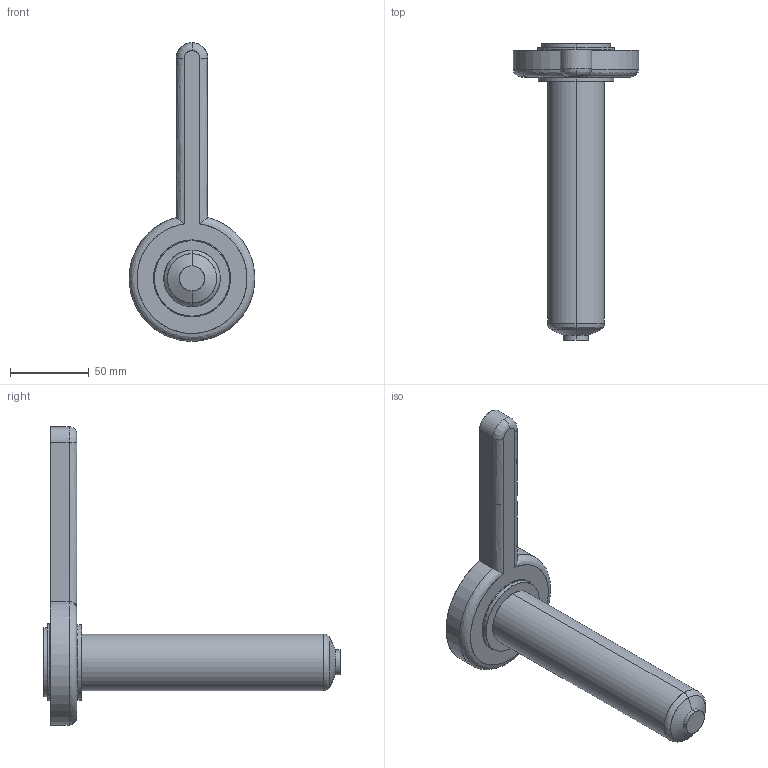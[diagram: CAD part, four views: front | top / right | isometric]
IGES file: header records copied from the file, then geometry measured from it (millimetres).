
Start section: SolidWorks IGES file using analytic representation for surfaces
Global section: file name: C:\Documents and Settings\ws-20\Desktop\TEMPORANEA\Sede UGBE5004-S-A C-164 L-186 P-0.IGS; native system: SolidWorks 2012; preprocessor: SolidWorks 2012; author: ws-20; date: 120307.090653; units: millimetre
Bounding box: 79.97 x 188.42 x 190 mm (x, y, z)
Surface area: 40129.8 mm2 (no closed solid volume)
Topology: 0 solids, 0 shells, 34 faces, 788 edges, 788 vertices
Faces by surface type: revolution 21, bspline 13
